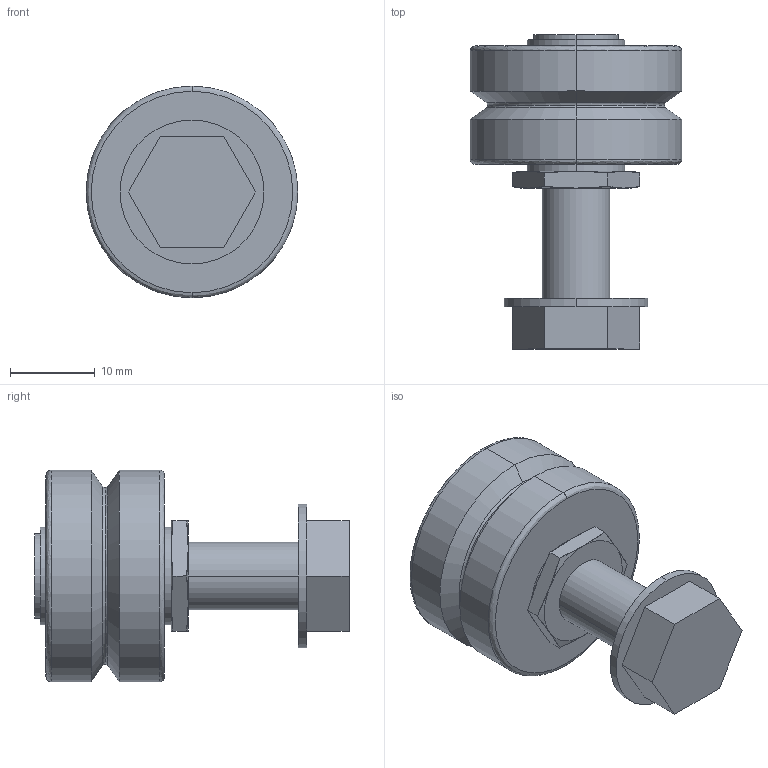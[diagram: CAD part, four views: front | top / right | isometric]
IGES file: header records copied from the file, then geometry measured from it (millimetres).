
Start section: 3D InterOp IGES (Version 21 0 1), Spatial Corp. Copyright (c) 1999-2007.
Global section: file name: RLFJ25CNS.igs; native system: Spatial Corp.; preprocessor: 3D InterOp GENERIC/IGES 3.0; author: Noname; organization: Noname; date: 20220627.163918; units: millimetre
Bounding box: 25 x 37.1 x 25 mm (x, y, z)
Surface area: 5428.2 mm2 (no closed solid volume)
Topology: 0 solids, 0 shells, 69 faces, 296 edges, 296 vertices
Faces by surface type: revolution 40, extrusion 29
